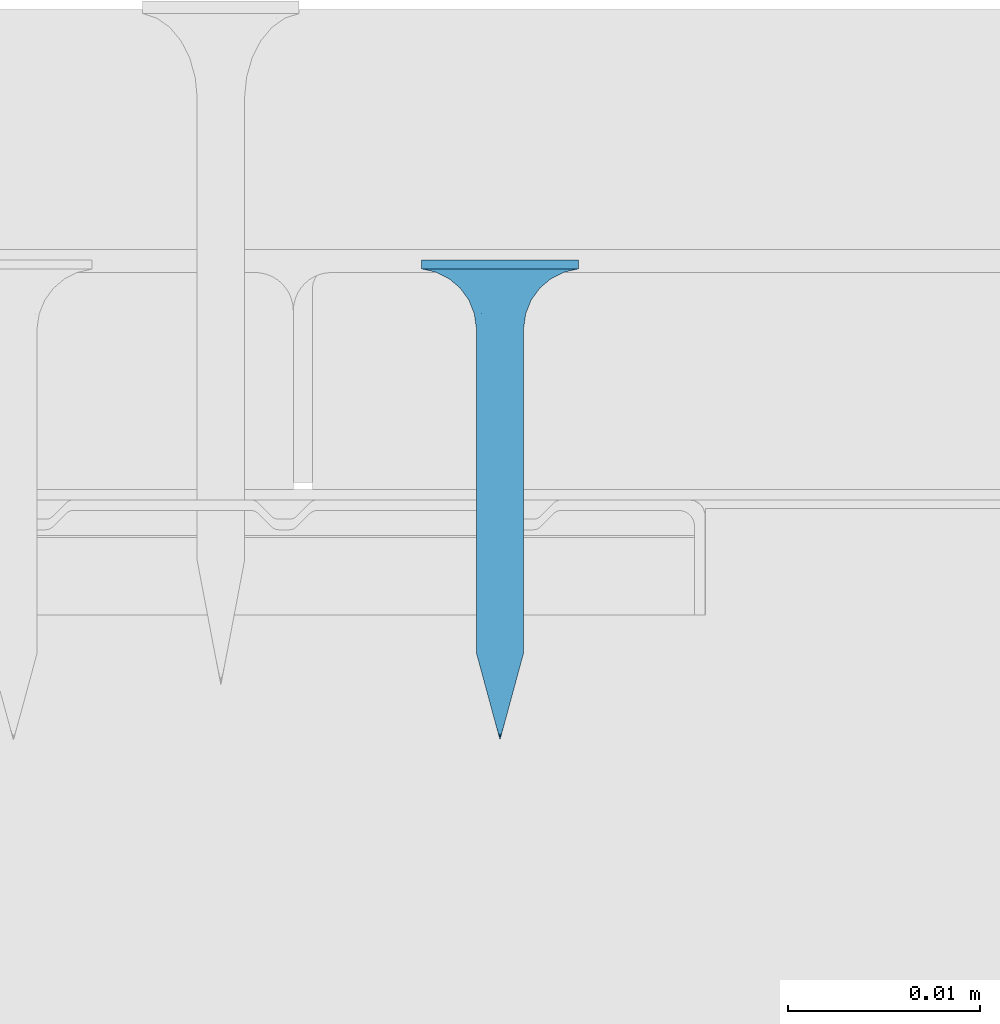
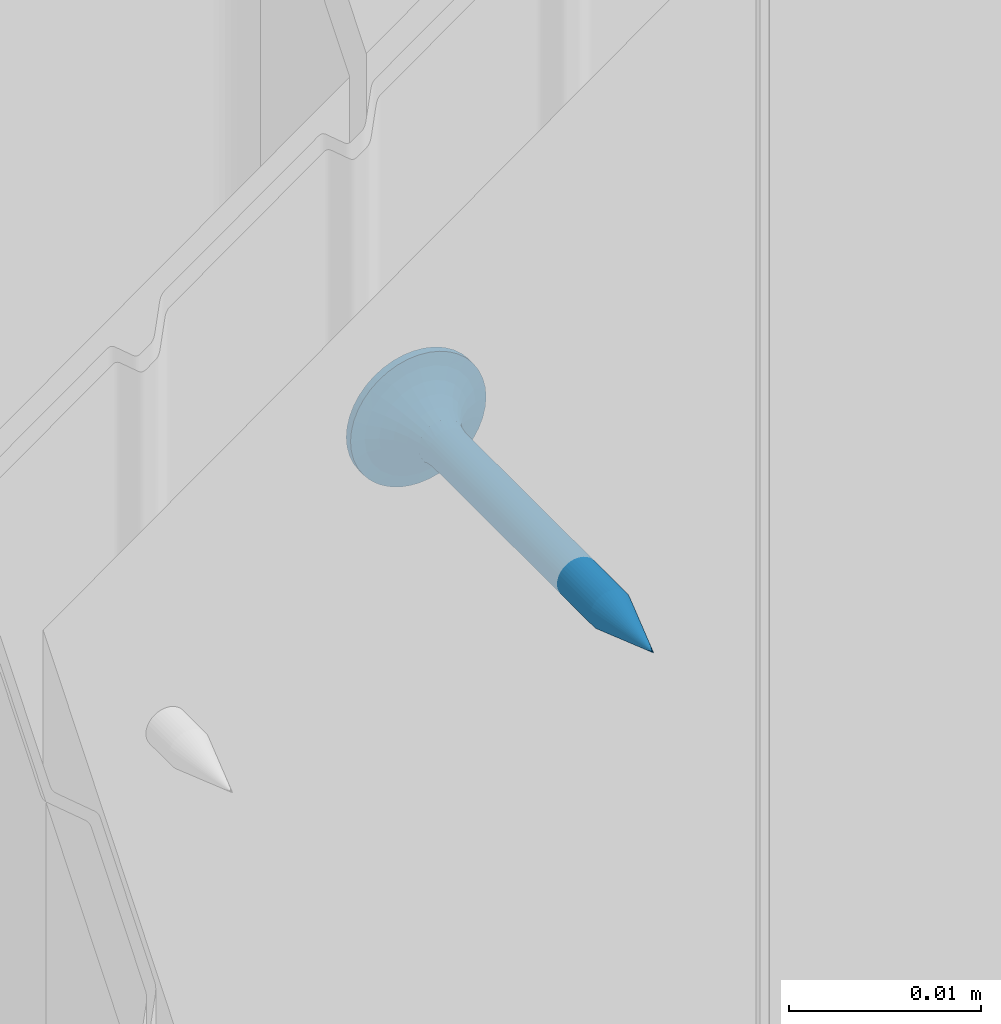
# One storey, part 21 of 95: 1 wall.
"""IFC2X3 building model written with IfcOpenShell, lengths in millimetres."""

from ifc_helpers import new_model, entity, si_unit, converted_unit, direction, frame, origin, origin_with_axes, place, context, project, spatial, faceted_brep, element, save


model = new_model("IFC2X3")

# Units and contexts
model_context = context("Model", 3, precision=1e-05, world=origin(), true_north=direction((0.0, 1.0, 0.0)))
ifc_project = project(units=[si_unit("LENGTHUNIT", "METRE", prefix="MILLI"), si_unit("AREAUNIT", "SQUARE_METRE"), si_unit("VOLUMEUNIT", "CUBIC_METRE"), converted_unit("PLANEANGLEUNIT", "DEGREE", entity("IfcPlaneAngleMeasure", 0.01745), si_unit("PLANEANGLEUNIT", "RADIAN"), dimensions=[0, 0, 0, 0, 0, 0, 0]), si_unit("SOLIDANGLEUNIT", "STERADIAN"), si_unit("MASSUNIT", "GRAM"), si_unit("TIMEUNIT", "SECOND"), si_unit("THERMODYNAMICTEMPERATUREUNIT", "DEGREE_CELSIUS"), si_unit("LUMINOUSINTENSITYUNIT", "LUMEN")], contexts=[model_context])

# Site, building, storey
site_placement = place(None, origin_with_axes())
site = spatial("IfcSite", under=ifc_project, at=site_placement, Name="Default Site", CompositionType="ELEMENT")
building_placement = place(site_placement, origin_with_axes())
building = spatial("IfcBuilding", under=site, at=building_placement, Name="Default Building", CompositionType="ELEMENT")
storey_placement = place(building_placement, origin_with_axes())
storey = spatial("IfcBuildingStorey", under=building, at=storey_placement, Name="Default Building Storey", CompositionType="ELEMENT", Elevation=0.0)

# Wall
wall_placement = place(storey_placement, frame((2363.769046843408, -1280.969176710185, 400.121469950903), z_axis=(0.0, 0.0, 1.0), x_axis=(1.0, 0.0, 0.0)))
element("IfcWall", 1, at=wall_placement, inside=storey, Name="Wkręt RIGIPS TN 25", context=model_context, shape_type="Brep", body=[
    faceted_brep([(-141.5377463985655, 3390.556721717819, 555.8000000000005), (-141.5377463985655, 3391.020944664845, 555.8000000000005), (-141.4875329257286, 3391.020944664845, 555.1619773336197), (-141.4875329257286, 3390.556721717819, 555.1619773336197), (-141.338128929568, 3391.020944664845, 554.5396649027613), (-141.338128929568, 3390.556721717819, 554.5396649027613), (-141.0932132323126, 3391.020944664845, 553.9483861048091), (-141.0932132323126, 3390.556721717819, 553.9483861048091), (-140.7588164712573, 3391.020944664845, 553.4027001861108), (-140.7588164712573, 3390.556721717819, 553.4027001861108), (-140.3431726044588, 3391.020944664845, 552.9160437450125), (-140.4541727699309, 3390.556721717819, 553.0314907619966), (-140.1080097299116, 3390.556721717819, 552.6986614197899), (-139.8565161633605, 3391.020944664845, 552.500399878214), (-139.7251262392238, 3390.556721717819, 552.4088262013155), (-139.3108302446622, 3391.020944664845, 552.1660031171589), (-139.3108302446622, 3390.556721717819, 552.1660031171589), (-138.8708651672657, 3390.556721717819, 551.9735584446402), (-138.7195514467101, 3391.020944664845, 551.9210874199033), (-138.4113302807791, 3390.556721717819, 551.8341600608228), (-137.9385961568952, 3390.556721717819, 551.7497404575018), (-138.0972390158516, 3391.020944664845, 551.7716834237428), (-137.459216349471, 3391.020944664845, 551.7214699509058), (-137.459216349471, 3390.556721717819, 551.7214699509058), (-136.8211936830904, 3391.020944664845, 551.7716834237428), (-136.8211936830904, 3390.556721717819, 551.7716834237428), (-136.198881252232, 3391.020944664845, 551.9210874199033), (-136.198881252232, 3390.556721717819, 551.9210874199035), (-135.6076024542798, 3391.020944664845, 552.1660031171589), (-135.6076024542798, 3390.556721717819, 552.1660031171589), (-135.0619165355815, 3391.020944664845, 552.500399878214), (-135.0619165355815, 3390.556721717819, 552.500399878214), (-134.5752600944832, 3391.020944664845, 552.9160437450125), (-134.5752600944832, 3390.556721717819, 552.9160437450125), (-134.1596162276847, 3391.020944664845, 553.4027001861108), (-134.1596162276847, 3390.556721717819, 553.4027001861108), (-133.8252194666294, 3391.020944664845, 553.9483861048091), (-133.8252194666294, 3390.556721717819, 553.9483861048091), (-133.580303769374, 3391.020944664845, 554.5396649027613), (-133.580303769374, 3390.556721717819, 554.5396649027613), (-133.4308997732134, 3391.020944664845, 556.438022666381), (-133.4308997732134, 3390.556721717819, 556.438022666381), (-133.3806863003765, 3390.556721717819, 555.8000000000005), (-133.3806863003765, 3391.020944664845, 555.8000000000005), (-133.4308997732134, 3390.556721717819, 555.1619773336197), (-133.4308997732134, 3391.020944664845, 555.1619773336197), (-133.580303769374, 3391.020944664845, 557.0603350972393), (-133.580303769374, 3390.556721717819, 557.0603350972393), (-133.8252194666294, 3391.020944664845, 557.6516138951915), (-133.8252194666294, 3390.556721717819, 557.6516138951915), (-134.1596162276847, 3391.020944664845, 558.1972998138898), (-134.1596162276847, 3390.556721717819, 558.1972998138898), (-134.5752600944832, 3391.020944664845, 558.6839562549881), (-134.5752600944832, 3390.556721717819, 558.6839562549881), (-135.0619165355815, 3391.020944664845, 559.0996001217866), (-135.0619165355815, 3390.556721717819, 559.0996001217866), (-135.6076024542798, 3391.020944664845, 559.4339968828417), (-135.6076024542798, 3390.556721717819, 559.4339968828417), (-136.198881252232, 3391.020944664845, 559.6789125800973), (-136.198881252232, 3390.556721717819, 559.6789125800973), (-136.8211936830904, 3391.020944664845, 559.8283165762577), (-136.8211936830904, 3390.556721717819, 559.8283165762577), (-137.459216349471, 3391.020944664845, 559.8785300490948), (-137.459216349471, 3390.556721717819, 559.8785300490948), (-138.0972390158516, 3391.020944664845, 559.8283165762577), (-138.0972390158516, 3390.556721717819, 559.8283165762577), (-138.7195514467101, 3391.020944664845, 559.6789125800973), (-138.7195514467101, 3390.556721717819, 559.6789125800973), (-139.3108302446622, 3391.020944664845, 559.4339968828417), (-139.3108302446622, 3390.556721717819, 559.4339968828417), (-139.8565161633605, 3391.020944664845, 559.0996001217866), (-139.8565161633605, 3390.556721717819, 559.0996001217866), (-140.3431726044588, 3391.020944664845, 558.6839562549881), (-140.3431726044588, 3390.556721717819, 558.6839562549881), (-140.7588164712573, 3391.020944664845, 558.1972998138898), (-140.7588164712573, 3390.556721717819, 558.1972998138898), (-141.0932132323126, 3391.020944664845, 557.6516138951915), (-141.0932132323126, 3390.556721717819, 557.6516138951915), (-141.338128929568, 3391.020944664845, 557.0603350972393), (-141.338128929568, 3390.556721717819, 557.0603350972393), (-141.4875329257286, 3391.020944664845, 556.438022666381), (-141.4875329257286, 3390.556721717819, 556.438022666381), (-137.8060615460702, 3388.229732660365, 554.5055560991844), (-137.459216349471, 3387.475459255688, 554.5693795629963), (-137.6517277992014, 3387.475459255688, 554.5845305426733), (-137.459216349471, 3388.229732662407, 554.4598930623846), (-137.8394989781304, 3387.475459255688, 554.6296104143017), (-138.1292698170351, 3388.229732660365, 554.6394333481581), (-138.0179063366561, 3387.475459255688, 554.7035091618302), (-138.1825568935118, 3387.475459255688, 554.8044071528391), (-138.4068150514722, 3388.229732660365, 554.8524012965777), (-138.3293964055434, 3387.475459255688, 554.9298199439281), (-138.6197830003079, 3388.229732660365, 555.1299465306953), (-138.4548091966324, 3387.475459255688, 555.0766594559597), (-138.5557071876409, 3387.475459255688, 555.2413100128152), (-138.7536602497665, 3388.229732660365, 555.4531548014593), (-138.6296059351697, 3387.475459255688, 555.4197173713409), (-138.6746858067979, 3387.475459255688, 555.6074885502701), (-138.7993232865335, 3388.229732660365, 555.7999999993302), (-138.6898367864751, 3387.475459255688, 555.8000000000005), (-138.7536602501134, 3388.229732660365, 556.1468451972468), (-138.6746858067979, 3387.475459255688, 555.9925114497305), (-138.6296059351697, 3387.475459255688, 556.1802826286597), (-138.6197830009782, 3388.229732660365, 556.4700534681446), (-138.5557071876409, 3387.475459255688, 556.3586899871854), (-138.4548091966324, 3387.475459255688, 556.5233405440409), (-138.4068150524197, 3388.229732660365, 556.7475987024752), (-138.3293964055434, 3387.475459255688, 556.6701800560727), (-138.1292698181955, 3388.229732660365, 556.9605666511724), (-138.1825568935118, 3387.475459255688, 556.7955928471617), (-138.0179063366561, 3387.475459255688, 556.8964908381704), (-137.8060615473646, 3388.229732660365, 557.0944439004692), (-137.8394989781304, 3387.475459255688, 556.9703895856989), (-137.6517277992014, 3387.475459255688, 557.0154694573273), (-137.459216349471, 3388.229732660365, 557.1401069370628), (-137.459216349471, 3387.475459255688, 557.0306204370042), (-137.1123711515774, 3388.229732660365, 557.0944439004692), (-137.2667048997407, 3387.475459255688, 557.0154694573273), (-137.0789337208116, 3387.475459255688, 556.9703895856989), (-136.7891628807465, 3388.229732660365, 556.9605666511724), (-136.9005263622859, 3387.475459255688, 556.8964908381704), (-136.7358758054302, 3387.475459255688, 556.7955928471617), (-136.5116176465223, 3388.229732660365, 556.7475987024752), (-136.5890362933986, 3387.475459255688, 556.6701800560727), (-136.2986496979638, 3388.229732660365, 556.4700534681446), (-136.4636235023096, 3387.475459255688, 556.5233405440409), (-136.3627255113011, 3387.475459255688, 556.3586899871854), (-136.1647724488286, 3388.229732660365, 556.1468451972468), (-136.2888267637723, 3387.475459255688, 556.1802826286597), (-136.2437468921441, 3387.475459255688, 555.9925114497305), (-136.1191094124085, 3388.229732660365, 555.7999999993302), (-136.2285959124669, 3387.475459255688, 555.8000000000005), (-136.1647724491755, 3388.229732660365, 555.4531548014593), (-136.2437468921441, 3387.475459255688, 555.6074885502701), (-136.2888267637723, 3387.475459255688, 555.4197173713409), (-136.2986496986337, 3388.229732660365, 555.1299465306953), (-136.3627255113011, 3387.475459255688, 555.2413100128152), (-136.4636235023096, 3387.475459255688, 555.0766594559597), (-136.5116176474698, 3388.229732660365, 554.8524012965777), (-136.5890362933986, 3387.475459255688, 554.9298199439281), (-136.7891628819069, 3388.229732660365, 554.6394333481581), (-136.7358758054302, 3387.475459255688, 554.8044071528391), (-136.9005263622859, 3387.475459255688, 554.7035091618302), (-137.1123711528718, 3388.229732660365, 554.5055560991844), (-137.0789337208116, 3387.475459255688, 554.6296104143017), (-137.2667048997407, 3387.475459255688, 554.5845305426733), (-137.459216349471, 3388.936142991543, 554.1737111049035), (-137.8801308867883, 3388.936142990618, 554.2291255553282), (-138.2723607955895, 3388.936142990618, 554.39159250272), (-138.6091762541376, 3388.936142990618, 554.6500400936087), (-138.8676238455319, 3388.936142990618, 554.9868555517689), (-139.030090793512, 3388.936142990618, 555.3790854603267), (-139.0855052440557, 3388.936142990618, 555.7999999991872), (-139.0300907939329, 3388.936142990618, 556.220914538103), (-138.8676238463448, 3388.936142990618, 556.6131444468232), (-138.6091762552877, 3388.936142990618, 556.949959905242), (-138.272360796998, 3388.936142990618, 557.2084074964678), (-137.8801308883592, 3388.936142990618, 557.3708744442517), (-137.459216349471, 3388.936142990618, 557.4262888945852), (-137.0383018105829, 3388.936142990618, 557.3708744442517), (-136.646071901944, 3388.936142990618, 557.2084074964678), (-136.3092564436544, 3388.936142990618, 556.949959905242), (-136.0508088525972, 3388.936142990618, 556.6131444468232), (-135.8883419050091, 3388.936142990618, 556.220914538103), (-135.8329274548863, 3388.936142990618, 555.7999999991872), (-135.88834190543, 3388.936142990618, 555.3790854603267), (-136.0508088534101, 3388.936142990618, 554.9868555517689), (-136.3092564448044, 3388.936142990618, 554.6500400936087), (-136.6460719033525, 3388.936142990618, 554.39159250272), (-137.0383018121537, 3388.936142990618, 554.2291255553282), (-137.459216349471, 3389.553938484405, 553.727343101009), (-137.995659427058, 3389.553938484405, 553.7979671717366), (-138.4955447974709, 3389.553938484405, 554.0050264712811), (-138.9248060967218, 3389.553938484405, 554.3344102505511), (-139.2541898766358, 3389.553938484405, 554.763671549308), (-139.46124917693, 3389.553938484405, 555.2635569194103), (-139.5318732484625, 3389.553938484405, 555.799999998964), (-139.4612491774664, 3389.553938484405, 556.3364430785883), (-139.2541898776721, 3389.553938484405, 556.8363284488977), (-138.9248060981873, 3389.553938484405, 557.2655897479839), (-138.495544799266, 3389.553938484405, 557.5949735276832), (-137.9956594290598, 3389.553938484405, 557.8020328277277), (-137.459216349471, 3389.553938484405, 557.8726568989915), (-136.9227732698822, 3389.553938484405, 557.8020328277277), (-136.422887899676, 3389.553938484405, 557.5949735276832), (-135.9936266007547, 3389.553938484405, 557.2655897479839), (-135.6642428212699, 3389.553938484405, 556.8363284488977), (-135.4571835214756, 3389.553938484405, 556.3364430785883), (-135.3865594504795, 3389.553938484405, 555.799999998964), (-135.457183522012, 3389.553938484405, 555.2635569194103), (-135.6642428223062, 3389.553938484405, 554.763671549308), (-135.9936266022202, 3389.553938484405, 554.3344102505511), (-136.4228879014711, 3389.553938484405, 554.0050264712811), (-136.922773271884, 3389.553938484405, 553.7979671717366), (-137.459216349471, 3390.04747944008, 553.1465393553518), (-138.1459824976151, 3390.047479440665, 553.2369538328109), (-138.7859466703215, 3390.047479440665, 553.5020356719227), (-139.3354963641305, 3390.047479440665, 553.9237199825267), (-139.7571806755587, 3390.047479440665, 554.4732696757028), (-140.0222625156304, 3390.047479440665, 555.1132338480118), (-140.1126769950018, 3390.047479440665, 555.7999999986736), (-140.0222625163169, 3390.047479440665, 556.4867661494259), (-139.7571806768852, 3390.047479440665, 557.1267303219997), (-139.3354963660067, 3390.047479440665, 557.6762800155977), (-138.7859466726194, 3390.047479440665, 558.0979643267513), (-138.1459825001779, 3390.047479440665, 558.3630461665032), (-137.459216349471, 3390.047479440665, 558.4534606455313), (-136.7724501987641, 3390.047479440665, 558.3630461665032), (-136.1324860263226, 3390.047479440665, 558.0979643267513), (-135.5829363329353, 3390.047479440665, 557.6762800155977), (-135.1612520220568, 3390.047479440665, 557.1267303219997), (-134.8961701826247, 3390.047479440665, 556.4867661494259), (-134.8057557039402, 3390.047479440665, 555.7999999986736), (-134.8961701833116, 3390.047479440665, 555.1132338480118), (-135.1612520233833, 3390.047479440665, 554.4732696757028), (-135.5829363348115, 3390.047479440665, 553.9237199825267), (-136.1324860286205, 3390.047479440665, 553.5020356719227), (-136.7724502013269, 3390.047479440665, 553.2369538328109), (-137.459216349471, 3390.388294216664, 552.4648055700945), (-138.3224281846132, 3390.388294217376, 552.5784495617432), (-139.1268135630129, 3390.388294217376, 552.9116368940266), (-139.8175549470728, 3390.388294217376, 553.4416613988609), (-140.3475794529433, 3390.388294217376, 554.1324027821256), (-140.6807667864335, 3390.388294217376, 554.936788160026), (-140.7944107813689, 3390.388294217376, 555.7999999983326), (-140.6807667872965, 3390.388294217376, 556.663211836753), (-140.3475794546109, 3390.388294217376, 557.4675972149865), (-139.8175549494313, 3390.388294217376, 558.1583385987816), (-139.1268135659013, 3390.388294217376, 558.6883631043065), (-138.3224281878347, 3390.388294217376, 559.0215504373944), (-137.459216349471, 3390.388294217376, 559.1351944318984), (-136.5960045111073, 3390.388294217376, 559.0215504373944), (-135.7916191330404, 3390.388294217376, 558.6883631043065), (-135.1008777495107, 3390.388294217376, 558.1583385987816), (-134.5708532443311, 3390.388294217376, 557.4675972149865), (-134.2376659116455, 3390.388294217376, 556.663211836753), (-134.1240219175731, 3390.388294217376, 555.7999999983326), (-134.2376659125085, 3390.388294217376, 554.936788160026), (-134.5708532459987, 3390.388294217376, 554.1324027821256), (-135.1008777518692, 3390.388294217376, 553.4416613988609), (-135.7916191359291, 3390.388294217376, 552.9116368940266), (-136.5960045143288, 3390.388294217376, 552.5784495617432), (-138.6898367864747, 3370.55807436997, 555.8000000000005), (-138.6746858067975, 3370.55807436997, 555.6074885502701), (-138.6296059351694, 3370.55807436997, 555.4197173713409), (-138.5557071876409, 3370.55807436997, 555.2413100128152), (-138.4548091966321, 3370.55807436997, 555.0766594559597), (-138.329396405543, 3370.55807436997, 554.9298199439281), (-138.1825568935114, 3370.55807436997, 554.8044071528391), (-138.0179063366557, 3370.55807436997, 554.7035091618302), (-137.83949897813, 3370.55807436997, 554.6296104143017), (-137.651727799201, 3370.55807436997, 554.5845305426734), (-137.4592163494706, 3370.55807436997, 554.5693795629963), (-137.2667048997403, 3370.55807436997, 554.5845305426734), (-137.0789337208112, 3370.55807436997, 554.6296104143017), (-136.9005263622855, 3370.55807436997, 554.7035091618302), (-136.7358758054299, 3370.55807436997, 554.8044071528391), (-136.5890362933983, 3370.55807436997, 554.9298199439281), (-136.4636235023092, 3370.55807436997, 555.0766594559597), (-136.3627255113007, 3370.55807436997, 555.2413100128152), (-136.2888267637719, 3370.55807436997, 555.4197173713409), (-136.2437468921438, 3370.55807436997, 555.9925114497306), (-136.2285959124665, 3370.55807436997, 555.8000000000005), (-136.2437468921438, 3370.55807436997, 555.6074885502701), (-136.2888267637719, 3370.55807436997, 556.1802826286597), (-136.3627255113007, 3370.55807436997, 556.3586899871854), (-136.4636235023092, 3370.55807436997, 556.5233405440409), (-136.5890362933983, 3370.55807436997, 556.6701800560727), (-136.7358758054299, 3370.55807436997, 556.7955928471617), (-136.9005263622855, 3370.55807436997, 556.8964908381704), (-137.0789337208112, 3370.55807436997, 556.9703895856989), (-137.2667048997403, 3370.55807436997, 557.0154694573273), (-137.4592163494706, 3370.55807436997, 557.0306204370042), (-137.651727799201, 3370.55807436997, 557.0154694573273), (-137.83949897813, 3370.55807436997, 556.9703895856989), (-138.0179063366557, 3370.55807436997, 556.8964908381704), (-138.1825568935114, 3370.55807436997, 556.7955928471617), (-138.329396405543, 3370.55807436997, 556.6701800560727), (-138.4548091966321, 3370.55807436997, 556.5233405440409), (-138.5557071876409, 3370.55807436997, 556.3586899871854), (-138.6296059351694, 3370.55807436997, 556.1802826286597), (-138.6746858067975, 3370.55807436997, 555.9925114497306), (-137.4592163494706, 3366.021033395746, 555.8000000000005), (-139.9592163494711, 3391.020944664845, 556.3000000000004), (-137.9592163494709, 3391.020944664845, 556.3000000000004), (-139.9592163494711, 3391.020944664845, 555.3000000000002), (-137.9592163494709, 3391.020944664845, 555.3000000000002), (-137.9592163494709, 3391.020944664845, 553.3000000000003), (-136.9592163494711, 3391.020944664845, 553.3000000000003), (-136.9592163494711, 3391.020944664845, 555.3000000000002), (-134.9592163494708, 3391.020944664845, 555.3000000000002), (-134.9592163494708, 3391.020944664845, 556.3000000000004), (-136.9592163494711, 3391.020944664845, 556.3000000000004), (-136.9592163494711, 3391.020944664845, 558.3000000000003), (-137.9592163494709, 3391.020944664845, 558.3000000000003), (-136.9592163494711, 3390.128974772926, 556.3000000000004), (-134.9592163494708, 3390.128974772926, 556.3000000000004), (-134.9592163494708, 3390.128974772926, 555.3000000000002), (-136.9592163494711, 3390.128974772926, 555.3000000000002), (-136.9592163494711, 3390.128974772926, 553.3000000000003), (-137.9592163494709, 3390.128974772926, 553.3000000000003), (-137.9592163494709, 3390.128974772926, 555.3000000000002), (-139.9592163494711, 3390.128974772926, 555.3000000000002), (-139.9592163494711, 3390.128974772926, 556.3000000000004), (-137.9592163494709, 3390.128974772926, 556.3000000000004), (-137.9592163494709, 3390.128974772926, 558.3000000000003), (-136.9592163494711, 3390.128974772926, 558.3000000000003)], [[[0, 1, 2, 3]], [[4, 5, 3, 2]], [[6, 7, 5, 4]], [[7, 6, 8, 9]], [[8, 10, 9]], [[10, 11, 9]], [[12, 11, 13]], [[11, 10, 13]], [[13, 14, 12]], [[13, 15, 14]], [[15, 16, 14]], [[17, 16, 18]], [[16, 15, 18]], [[18, 19, 17]], [[20, 19, 21]], [[19, 18, 21]], [[21, 22, 20]], [[22, 23, 20]], [[23, 22, 24, 25]], [[26, 27, 25, 24]], [[28, 29, 27, 26]], [[29, 28, 30, 31]], [[32, 33, 31, 30]], [[33, 32, 34, 35]], [[36, 37, 35, 34]], [[38, 39, 37, 36]], [[40, 41, 42, 43]], [[43, 42, 44, 45]], [[39, 38, 45, 44]], [[46, 47, 41, 40]], [[48, 49, 47, 46]], [[49, 48, 50, 51]], [[52, 53, 51, 50]], [[53, 52, 54, 55]], [[56, 57, 55, 54]], [[58, 59, 57, 56]], [[59, 58, 60, 61]], [[62, 63, 61, 60]], [[63, 62, 64, 65]], [[66, 67, 65, 64]], [[68, 69, 67, 66]], [[69, 68, 70, 71]], [[72, 73, 71, 70]], [[73, 72, 74, 75]], [[76, 77, 75, 74]], [[78, 79, 77, 76]], [[79, 78, 80, 81]], [[1, 0, 81, 80]], [[82, 83, 84]], [[82, 85, 83]], [[84, 86, 82]], [[82, 86, 87]], [[88, 87, 86]], [[87, 88, 89]], [[89, 90, 87]], [[89, 91, 90]], [[92, 91, 93]], [[92, 90, 91]], [[93, 94, 92]], [[92, 94, 95]], [[96, 95, 94]], [[95, 96, 97]], [[97, 98, 95]], [[97, 99, 98]], [[100, 99, 101]], [[100, 98, 99]], [[101, 102, 100]], [[100, 102, 103]], [[104, 103, 102]], [[103, 104, 105]], [[105, 106, 103]], [[105, 107, 106]], [[108, 107, 109]], [[108, 106, 107]], [[109, 110, 108]], [[108, 110, 111]], [[112, 111, 110]], [[111, 112, 113]], [[113, 114, 111]], [[113, 115, 114]], [[116, 115, 117]], [[116, 114, 115]], [[117, 118, 116]], [[116, 118, 119]], [[120, 119, 118]], [[119, 120, 121]], [[121, 122, 119]], [[121, 123, 122]], [[124, 123, 125]], [[124, 122, 123]], [[125, 126, 124]], [[124, 126, 127]], [[128, 127, 126]], [[127, 128, 129]], [[129, 130, 127]], [[129, 131, 130]], [[132, 131, 133]], [[132, 130, 131]], [[133, 134, 132]], [[132, 134, 135]], [[136, 135, 134]], [[135, 136, 137]], [[137, 138, 135]], [[137, 139, 138]], [[140, 139, 141]], [[140, 138, 139]], [[141, 142, 140]], [[140, 142, 143]], [[144, 143, 142]], [[143, 144, 145]], [[145, 85, 143]], [[145, 83, 85]], [[146, 85, 147]], [[82, 147, 85]], [[87, 148, 147, 82]], [[90, 149, 148, 87]], [[92, 150, 149, 90]], [[95, 151, 150, 92]], [[98, 152, 151, 95]], [[100, 153, 152, 98]], [[103, 154, 153, 100]], [[106, 155, 154, 103]], [[108, 156, 155, 106]], [[111, 157, 156, 108]], [[114, 158, 157, 111]], [[116, 159, 158, 114]], [[119, 160, 159, 116]], [[122, 161, 160, 119]], [[124, 162, 161, 122]], [[127, 163, 162, 124]], [[130, 164, 163, 127]], [[132, 165, 164, 130]], [[135, 166, 165, 132]], [[138, 167, 166, 135]], [[140, 168, 167, 138]], [[143, 169, 168, 140]], [[143, 85, 169]], [[146, 169, 85]], [[170, 146, 171]], [[147, 171, 146]], [[148, 172, 171, 147]], [[149, 173, 172, 148]], [[150, 174, 173, 149]], [[151, 175, 174, 150]], [[152, 176, 175, 151]], [[153, 177, 176, 152]], [[154, 178, 177, 153]], [[155, 179, 178, 154]], [[156, 180, 179, 155]], [[157, 181, 180, 156]], [[158, 182, 181, 157]], [[159, 183, 182, 158]], [[160, 184, 183, 159]], [[161, 185, 184, 160]], [[162, 186, 185, 161]], [[163, 187, 186, 162]], [[164, 188, 187, 163]], [[165, 189, 188, 164]], [[166, 190, 189, 165]], [[167, 191, 190, 166]], [[168, 192, 191, 167]], [[169, 193, 192, 168]], [[169, 146, 193]], [[170, 193, 146]], [[194, 170, 195]], [[171, 195, 170]], [[172, 196, 195, 171]], [[173, 197, 196, 172]], [[174, 198, 197, 173]], [[175, 199, 198, 174]], [[176, 200, 199, 175]], [[177, 201, 200, 176]], [[178, 202, 201, 177]], [[179, 203, 202, 178]], [[180, 204, 203, 179]], [[181, 205, 204, 180]], [[182, 206, 205, 181]], [[183, 207, 206, 182]], [[184, 208, 207, 183]], [[185, 209, 208, 184]], [[186, 210, 209, 185]], [[187, 211, 210, 186]], [[188, 212, 211, 187]], [[189, 213, 212, 188]], [[190, 214, 213, 189]], [[191, 215, 214, 190]], [[192, 216, 215, 191]], [[193, 217, 216, 192]], [[193, 170, 217]], [[194, 217, 170]], [[218, 19, 20]], [[218, 219, 19]], [[20, 23, 218]], [[218, 194, 219]], [[195, 219, 194]], [[219, 16, 17]], [[219, 220, 16]], [[17, 19, 219]], [[196, 220, 219, 195]], [[221, 11, 12]], [[220, 12, 14]], [[220, 221, 12]], [[14, 16, 220]], [[197, 221, 220, 196]], [[222, 7, 9]], [[9, 221, 222]], [[9, 11, 221]], [[198, 222, 221, 197]], [[5, 7, 223]], [[222, 223, 7]], [[199, 223, 222, 198]], [[223, 0, 3]], [[223, 224, 0]], [[3, 5, 223]], [[200, 224, 223, 199]], [[225, 79, 81]], [[81, 224, 225]], [[81, 0, 224]], [[201, 225, 224, 200]], [[225, 226, 77, 79]], [[202, 226, 225, 201]], [[226, 73, 75]], [[226, 227, 73]], [[75, 77, 226]], [[203, 227, 226, 202]], [[228, 69, 71]], [[71, 227, 228]], [[71, 73, 227]], [[204, 228, 227, 203]], [[228, 229, 67, 69]], [[205, 229, 228, 204]], [[229, 63, 65]], [[229, 230, 63]], [[65, 67, 229]], [[206, 230, 229, 205]], [[231, 59, 61]], [[61, 230, 231]], [[61, 63, 230]], [[207, 231, 230, 206]], [[231, 232, 57, 59]], [[208, 232, 231, 207]], [[232, 53, 55]], [[232, 233, 53]], [[55, 57, 232]], [[209, 233, 232, 208]], [[234, 49, 51]], [[51, 233, 234]], [[51, 53, 233]], [[210, 234, 233, 209]], [[234, 235, 47, 49]], [[211, 235, 234, 210]], [[235, 42, 41]], [[235, 236, 42]], [[41, 47, 235]], [[212, 236, 235, 211]], [[237, 39, 44]], [[44, 236, 237]], [[44, 42, 236]], [[213, 237, 236, 212]], [[37, 39, 238]], [[237, 238, 39]], [[214, 238, 237, 213]], [[238, 33, 35]], [[238, 239, 33]], [[35, 37, 238]], [[215, 239, 238, 214]], [[240, 29, 31]], [[31, 239, 240]], [[31, 33, 239]], [[216, 240, 239, 215]], [[27, 29, 241]], [[240, 241, 29]], [[217, 241, 240, 216]], [[217, 194, 241]], [[218, 241, 194]], [[241, 23, 25]], [[241, 218, 23]], [[25, 27, 241]], [[242, 99, 97, 243]], [[96, 244, 243, 97]], [[94, 245, 244, 96]], [[245, 94, 93, 246]], [[91, 247, 246, 93]], [[247, 91, 89, 248]], [[88, 249, 248, 89]], [[86, 250, 249, 88]], [[250, 86, 84, 251]], [[83, 252, 251, 84]], [[252, 83, 145, 253]], [[144, 254, 253, 145]], [[142, 255, 254, 144]], [[255, 142, 141, 256]], [[139, 257, 256, 141]], [[257, 139, 137, 258]], [[136, 259, 258, 137]], [[134, 260, 259, 136]], [[129, 261, 262, 131]], [[131, 262, 263, 133]], [[260, 134, 133, 263]], [[128, 264, 261, 129]], [[126, 265, 264, 128]], [[265, 126, 125, 266]], [[123, 267, 266, 125]], [[267, 123, 121, 268]], [[120, 269, 268, 121]], [[118, 270, 269, 120]], [[270, 118, 117, 271]], [[115, 272, 271, 117]], [[272, 115, 113, 273]], [[112, 274, 273, 113]], [[110, 275, 274, 112]], [[275, 110, 109, 276]], [[107, 277, 276, 109]], [[277, 107, 105, 278]], [[104, 279, 278, 105]], [[102, 280, 279, 104]], [[280, 102, 101, 281]], [[99, 242, 281, 101]], [[243, 244, 282]], [[282, 242, 243]], [[244, 245, 282]], [[246, 247, 282]], [[282, 245, 246]], [[248, 249, 282]], [[282, 247, 248]], [[249, 250, 282]], [[251, 252, 282]], [[282, 250, 251]], [[253, 254, 282]], [[282, 252, 253]], [[254, 255, 282]], [[256, 257, 282]], [[282, 255, 256]], [[258, 259, 282]], [[282, 257, 258]], [[259, 260, 282]], [[263, 262, 282]], [[282, 260, 263]], [[261, 264, 282]], [[282, 262, 261]], [[264, 265, 282]], [[266, 267, 282]], [[282, 265, 266]], [[268, 269, 282]], [[282, 267, 268]], [[269, 270, 282]], [[271, 272, 282]], [[282, 270, 271]], [[273, 274, 282]], [[282, 272, 273]], [[274, 275, 282]], [[276, 277, 282]], [[282, 275, 276]], [[278, 279, 282]], [[282, 277, 278]], [[279, 280, 282]], [[281, 242, 282]], [[282, 280, 281]], [[283, 76, 74, 284]], [[283, 285, 286, 287, 288, 289, 290, 291, 292, 293, 294, 284, 74, 72, 70, 68, 66, 64, 62, 60, 58, 56, 54, 52, 50, 48, 46, 40, 43, 45, 38, 36, 34, 32, 30, 28, 26, 24, 22, 21, 18, 15, 13, 10, 8, 6, 4, 2, 1, 80, 78, 76]], [[295, 296, 297, 298, 299, 300, 301, 302, 303, 304, 305, 306]], [[297, 290, 289, 298]], [[296, 291, 290, 297]], [[295, 292, 291, 296]], [[306, 293, 292, 295]], [[305, 294, 293, 306]], [[304, 284, 294, 305]], [[303, 283, 284, 304]], [[302, 285, 283, 303]], [[301, 286, 285, 302]], [[300, 287, 286, 301]], [[299, 288, 287, 300]], [[298, 289, 288, 299]]]),
])

save(model, "model.ifc")
